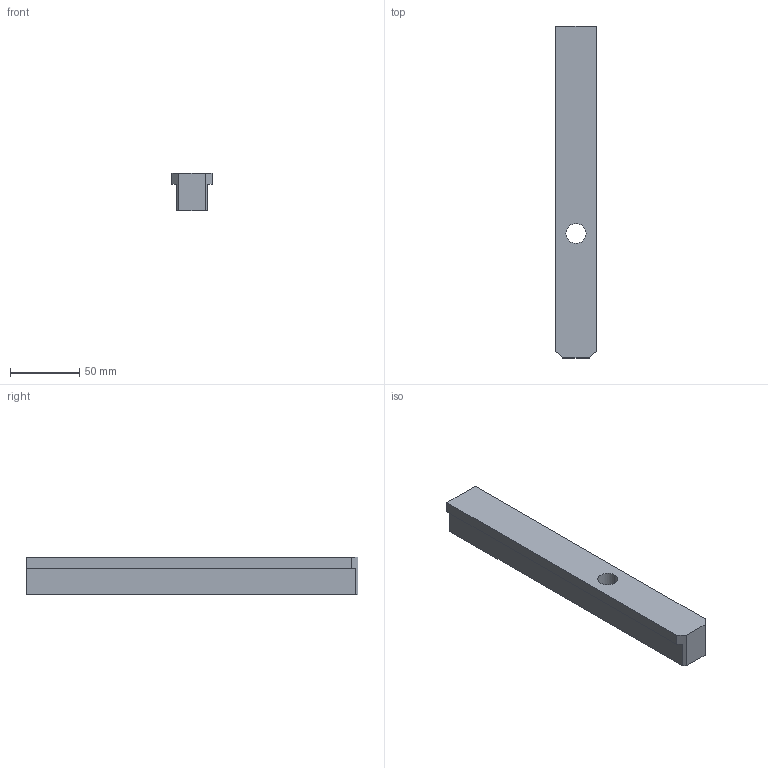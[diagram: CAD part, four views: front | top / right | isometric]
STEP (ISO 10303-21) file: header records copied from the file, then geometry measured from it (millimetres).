
FILE_DESCRIPTION (( 'STEP AP203' ), '1' );
FILE_NAME ('020100000004560.step', '2024-07-03T11:18:17', ( '' ), ( '' ), 'SwSTEP 2.0', 'SolidWorks 2023', '' );
FILE_SCHEMA (( 'CONFIG_CONTROL_DESIGN' ));
Length unit declared in the file: millimetre
Products named in the file (1): 020100000004560
Bounding box: 29 x 240 x 27 mm (x, y, z)
Volume: 155216.8 mm3; surface area: 29454.1 mm2
Topology: 1 solids, 1 shells, 22 faces, 56 edges, 34 vertices
Faces by surface type: plane 12, cylinder 6, cone 4
Entity records: 713 total; most frequent: DIRECTION 110, CARTESIAN_POINT 109, ORIENTED_EDGE 104, EDGE_CURVE 52, LINE 40, VECTOR 40, AXIS2_PLACEMENT_3D 35, VERTEX_POINT 34
